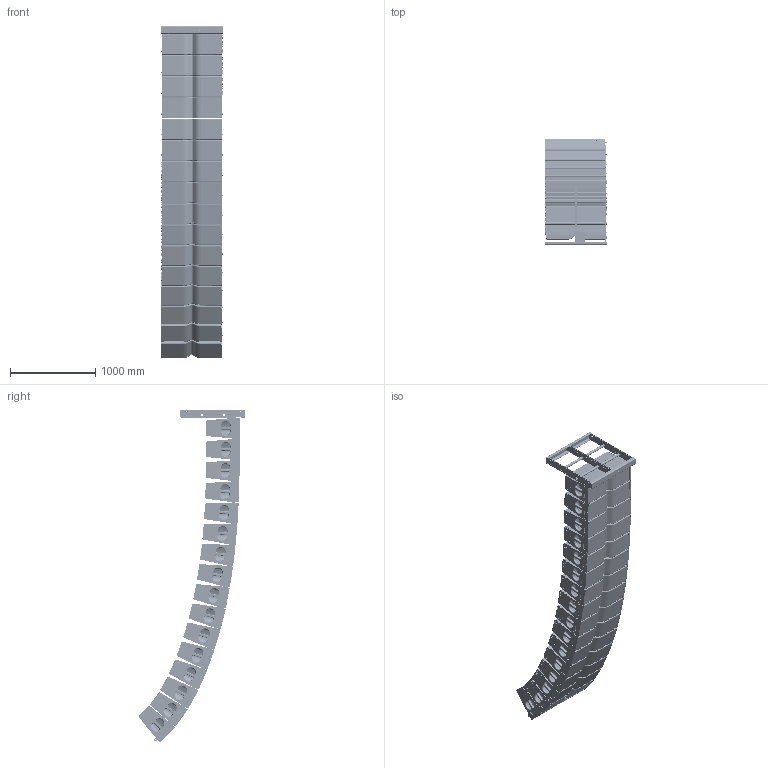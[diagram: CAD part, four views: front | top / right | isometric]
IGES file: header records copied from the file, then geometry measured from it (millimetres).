
Global section: file name: LA28 16 Box ARRAY v5; native system: unknown; preprocessor: unknown; author: unknown; organization: unknown; date: 20230122.003142; units: inch
Bounding box: 728.79 x 1250.12 x 3888.69 mm (x, y, z)
Volume: 923413651.2 mm3; surface area: 21391756.9 mm2
Topology: 31 solids, 31 shells, 7297 faces, 19263 edges, 12940 vertices
Faces by surface type: bspline 7297
